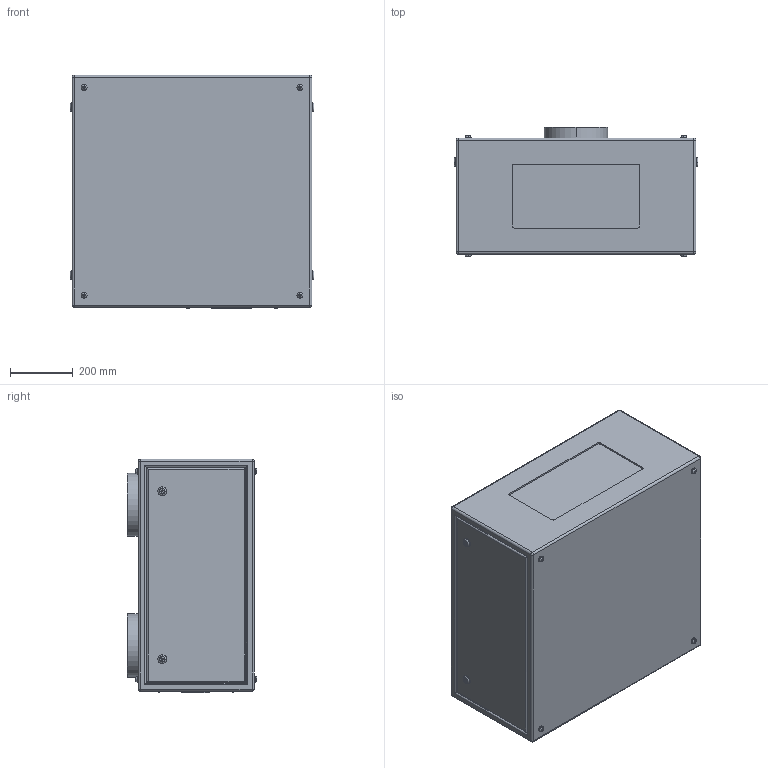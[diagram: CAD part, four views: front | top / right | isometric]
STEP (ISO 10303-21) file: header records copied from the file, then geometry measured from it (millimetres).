
FILE_DESCRIPTION (( 'STEP AP214' ), '1' );
FILE_NAME ('Tacit 56.050.L R07.STEP', '2022-09-11T22:43:59', ( '' ), ( '' ), 'SwSTEP 2.0', 'SolidWorks 2020', '' );
FILE_SCHEMA (( 'AUTOMOTIVE_DESIGN' ));
Length unit declared in the file: inch
Products named in the file (1): Tacit 56.050.L R07
Bounding box: 774.7 x 411.35 x 741.68 mm (x, y, z)
Volume: 206088059.4 mm3; surface area: 2497697.2 mm2
Topology: 1 solids, 5 shells, 353 faces, 784 edges, 492 vertices
Faces by surface type: plane 181, cylinder 128, torus 36, sphere 8
Entity records: 12687 total; most frequent: DIRECTION 1764, CARTESIAN_POINT 1670, ORIENTED_EDGE 1552, EDGE_CURVE 776, AXIS2_PLACEMENT_3D 650, VERTEX_POINT 492, LINE 464, VECTOR 464
